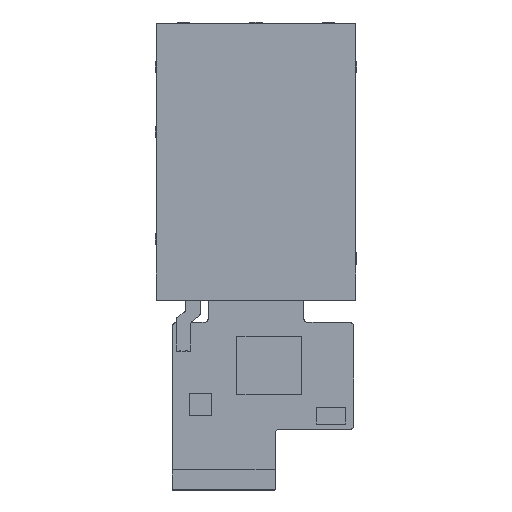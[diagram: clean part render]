
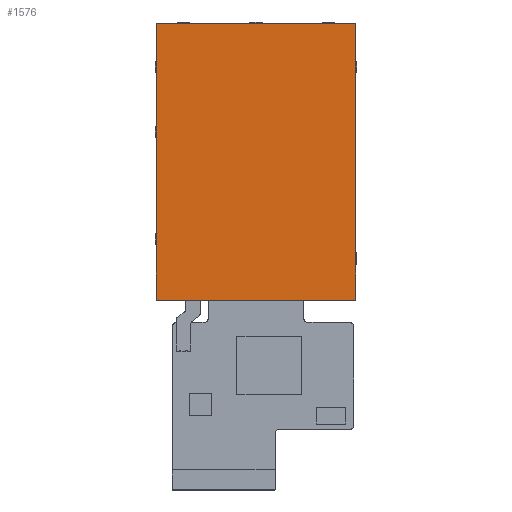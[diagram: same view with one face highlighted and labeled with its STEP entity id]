
A CAD part, top view. The second image highlights one B-rep face of the part: STEP entity #1576.
In plain terms, the highlighted planar face has unit normal (0, 0, 1).
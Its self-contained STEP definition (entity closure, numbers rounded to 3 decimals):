
#25=DIRECTION('',(1.,0.,0.));
#26=VECTOR('',#25,48.9);
#27=CARTESIAN_POINT('',(-24.45,31.805,0.));
#28=LINE('',#27,#26);
#29=CARTESIAN_POINT('',(24.45,31.505,0.));
#30=DIRECTION('',(0.,0.,-1.));
#31=DIRECTION('',(0.,1.,0.));
#32=AXIS2_PLACEMENT_3D('',#29,#30,#31);
#34=DIRECTION('',(0.,-1.,0.));
#35=VECTOR('',#34,68.1);
#36=CARTESIAN_POINT('',(24.75,31.505,0.));
#37=LINE('',#36,#35);
#38=CARTESIAN_POINT('',(24.45,-36.595,0.));
#39=DIRECTION('',(0.,0.,-1.));
#40=DIRECTION('',(1.,0.,0.));
#41=AXIS2_PLACEMENT_3D('',#38,#39,#40);
#43=DIRECTION('',(-1.,0.,0.));
#44=VECTOR('',#43,48.9);
#45=CARTESIAN_POINT('',(24.45,-36.895,0.));
#46=LINE('',#45,#44);
#47=CARTESIAN_POINT('',(-24.45,-36.595,0.));
#48=DIRECTION('',(0.,0.,-1.));
#49=DIRECTION('',(0.,-1.,0.));
#50=AXIS2_PLACEMENT_3D('',#47,#48,#49);
#52=DIRECTION('',(0.,1.,0.));
#53=VECTOR('',#52,68.1);
#54=CARTESIAN_POINT('',(-24.75,-36.595,0.));
#55=LINE('',#54,#53);
#56=CARTESIAN_POINT('',(-24.45,31.505,0.));
#57=DIRECTION('',(0.,0.,-1.));
#58=DIRECTION('',(-1.,0.,0.));
#59=AXIS2_PLACEMENT_3D('',#56,#57,#58);
#1143=CARTESIAN_POINT('',(-24.45,31.805,0.));
#1144=CARTESIAN_POINT('',(24.45,31.805,0.));
#1145=VERTEX_POINT('',#1143);
#1146=VERTEX_POINT('',#1144);
#1195=CARTESIAN_POINT('',(24.75,31.505,0.));
#1196=VERTEX_POINT('',#1195);
#1197=CARTESIAN_POINT('',(24.75,-36.595,0.));
#1198=VERTEX_POINT('',#1197);
#1199=CARTESIAN_POINT('',(24.45,-36.895,0.));
#1200=VERTEX_POINT('',#1199);
#1201=CARTESIAN_POINT('',(-24.45,-36.895,0.));
#1202=VERTEX_POINT('',#1201);
#1203=CARTESIAN_POINT('',(-24.75,-36.595,0.));
#1204=VERTEX_POINT('',#1203);
#1205=CARTESIAN_POINT('',(-24.75,31.505,0.));
#1206=VERTEX_POINT('',#1205);
#1554=CARTESIAN_POINT('',(0.,0.,0.));
#1555=DIRECTION('',(0.,0.,1.));
#1556=DIRECTION('',(1.,0.,0.));
#1557=AXIS2_PLACEMENT_3D('',#1554,#1555,#1556);
#1558=PLANE('',#1557);
#1559=ORIENTED_EDGE('',*,*,#1514,.T.);
#1561=ORIENTED_EDGE('',*,*,#1560,.T.);
#1563=ORIENTED_EDGE('',*,*,#1562,.T.);
#1565=ORIENTED_EDGE('',*,*,#1564,.T.);
#1567=ORIENTED_EDGE('',*,*,#1566,.T.);
#1569=ORIENTED_EDGE('',*,*,#1568,.T.);
#1571=ORIENTED_EDGE('',*,*,#1570,.T.);
#1573=ORIENTED_EDGE('',*,*,#1572,.T.);
#1574=EDGE_LOOP('',(#1559,#1561,#1563,#1565,#1567,#1569,#1571,#1573));
#1575=FACE_OUTER_BOUND('',#1574,.F.);
#33=CIRCLE('',#32,0.3);
#42=CIRCLE('',#41,0.3);
#51=CIRCLE('',#50,0.3);
#60=CIRCLE('',#59,0.3);
#1514=EDGE_CURVE('',#1145,#1146,#28,.T.);
#1560=EDGE_CURVE('',#1146,#1196,#33,.T.);
#1562=EDGE_CURVE('',#1196,#1198,#37,.T.);
#1564=EDGE_CURVE('',#1198,#1200,#42,.T.);
#1566=EDGE_CURVE('',#1200,#1202,#46,.T.);
#1568=EDGE_CURVE('',#1202,#1204,#51,.T.);
#1570=EDGE_CURVE('',#1204,#1206,#55,.T.);
#1572=EDGE_CURVE('',#1206,#1145,#60,.T.);
#1576=ADVANCED_FACE('',(#1575),#1558,.T.);
